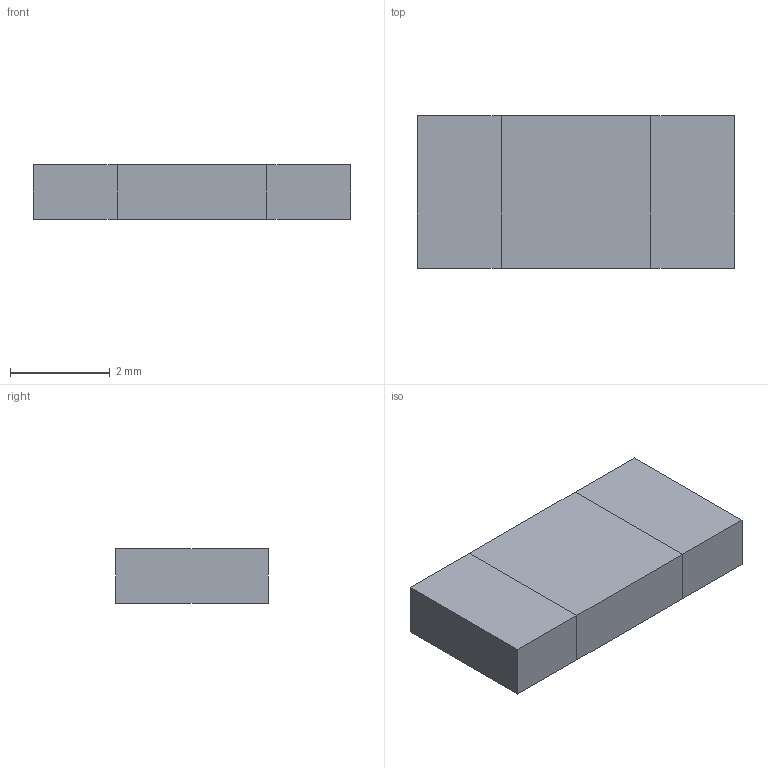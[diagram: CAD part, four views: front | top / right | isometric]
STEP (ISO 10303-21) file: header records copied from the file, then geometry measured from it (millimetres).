
FILE_DESCRIPTION(('Open CASCADE Model'),'2;1');
FILE_NAME('Open CASCADE Shape Model','2026-10-29T11:35:24',('Author'),( 'Open CASCADE'),'Open CASCADE STEP processor 7.9','Open CASCADE 7.9' ,'Unknown');
FILE_SCHEMA(('AUTOMOTIVE_DESIGN { 1 0 10303 214 1 1 1 1 }'));
Length unit declared in the file: millimetre
Products named in the file (4): Bourns_CSS2H_2512K_2L00F_ENVELOPE; body0; body1; body2
Assembly tree (3 placements, depth 2):
  Bourns_CSS2H_2512K_2L00F_ENVELOPE
    body0
    body1
    body2
Bounding box: 6.35 x 3.05 x 1.09 mm (x, y, z)
Volume: 21.1 mm3; surface area: 72.5 mm2
Topology: 3 solids, 3 shells, 18 faces, 36 edges, 24 vertices
Faces by surface type: plane 18
Entity records: 1014 total; most frequent: CARTESIAN_POINT 154, DIRECTION 152, LINE 108, VECTOR 108, ORIENTED_EDGE 72, PCURVE 72, DEFINITIONAL_REPRESENTATION 72, EDGE_CURVE 36
